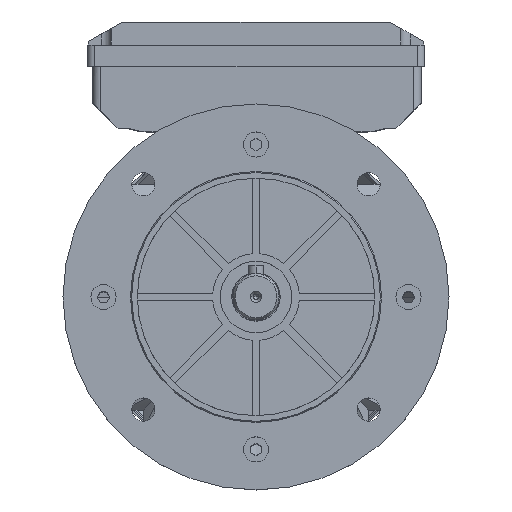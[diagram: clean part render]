
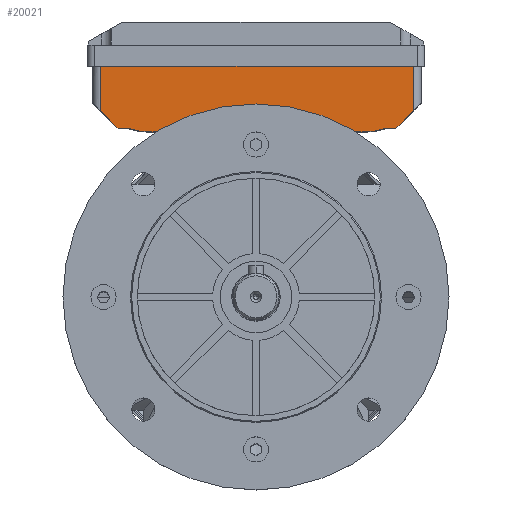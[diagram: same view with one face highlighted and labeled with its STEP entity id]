
A CAD part, top view. The second image highlights one B-rep face of the part: STEP entity #20021.
In plain terms, the highlighted planar face has unit normal (0, 0, 1).
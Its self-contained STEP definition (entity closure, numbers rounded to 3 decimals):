
#4785 = ORIENTED_EDGE ( 'NONE', *, *, #44214, .T. ) ;
#4786 = ORIENTED_EDGE ( 'NONE', *, *, #44221, .T. ) ;
#4787 = ORIENTED_EDGE ( 'NONE', *, *, #44192, .T. ) ;
#4788 = ORIENTED_EDGE ( 'NONE', *, *, #44222, .T. ) ;
#4789 = ORIENTED_EDGE ( 'NONE', *, *, #44204, .T. ) ;
#4790 = ORIENTED_EDGE ( 'NONE', *, *, #44194, .T. ) ;
#4791 = ORIENTED_EDGE ( 'NONE', *, *, #44103, .T. ) ;
#4792 = ORIENTED_EDGE ( 'NONE', *, *, #44090, .T. ) ;
#4793 = ORIENTED_EDGE ( 'NONE', *, *, #41384, .T. ) ;
#4794 = ORIENTED_EDGE ( 'NONE', *, *, #44216, .T. ) ;
#7092 = EDGE_LOOP ( 'NONE', ( #4785, #4786, #4787, #4788, #4789, #4790, #4791, #4792, #4793, #4794 ) ) ;
#16500 = FACE_OUTER_BOUND ( 'NONE', #7092, .T. ) ;
#20021 = ADVANCED_FACE ( 'NONE', ( #16500 ), #46964, .F. ) ;
#20948 = LINE ( 'NONE', #21296, #20951 ) ;
#20951 = VECTOR ( 'NONE', #21297, 1000. ) ;
#20972 = CIRCLE ( 'NONE', #34708, 41.641 ) ;
#21113 = LINE ( 'NONE', #21573, #21115 ) ;
#21115 = VECTOR ( 'NONE', #21565, 1000. ) ;
#21116 = LINE ( 'NONE', #21586, #21118 ) ;
#21118 = VECTOR ( 'NONE', #21587, 1000. ) ;
#21129 = LINE ( 'NONE', #21620, #21131 ) ;
#21131 = VECTOR ( 'NONE', #21621, 1000. ) ;
#21137 = LINE ( 'NONE', #21642, #21150 ) ;
#21144 = LINE ( 'NONE', #21646, #21146 ) ;
#21146 = VECTOR ( 'NONE', #21647, 1000. ) ;
#21150 = VECTOR ( 'NONE', #21651, 1000. ) ;
#21156 = LINE ( 'NONE', #21661, #21159 ) ;
#21158 = LINE ( 'NONE', #21663, #21161 ) ;
#21159 = VECTOR ( 'NONE', #21662, 1000. ) ;
#21161 = VECTOR ( 'NONE', #21664, 1000. ) ;
#21296 = CARTESIAN_POINT ( 'NONE',  ( -41.5, 0., 0. ) ) ;
#21297 = DIRECTION ( 'NONE',  ( 1., 0., 0. ) ) ;
#21325 = CARTESIAN_POINT ( 'NONE',  ( -54.25, 39.641, 0. ) ) ;
#21326 = DIRECTION ( 'NONE',  ( 0., 0., 1. ) ) ;
#21327 = DIRECTION ( 'NONE',  ( -1., 0., 0. ) ) ;
#21565 = DIRECTION ( 'NONE',  ( -1., 0., 0. ) ) ;
#21573 = CARTESIAN_POINT ( 'NONE',  ( -85., 41., 0. ) ) ;
#21586 = CARTESIAN_POINT ( 'NONE',  ( -72., 0., 0. ) ) ;
#21587 = DIRECTION ( 'NONE',  ( 1., 0., 0. ) ) ;
#21620 = CARTESIAN_POINT ( 'NONE',  ( -85., 13., 0. ) ) ;
#21621 = DIRECTION ( 'NONE',  ( 0.707, -0.707, 0. ) ) ;
#21642 = CARTESIAN_POINT ( 'NONE',  ( 72., 0., 0. ) ) ;
#21646 = CARTESIAN_POINT ( 'NONE',  ( 85., 13., 0. ) ) ;
#21647 = DIRECTION ( 'NONE',  ( 0.707, 0.707, 0. ) ) ;
#21651 = DIRECTION ( 'NONE',  ( 1., 0., 0. ) ) ;
#21661 = CARTESIAN_POINT ( 'NONE',  ( 81., 41., 0. ) ) ;
#21662 = DIRECTION ( 'NONE',  ( 0., 1., 0. ) ) ;
#21663 = CARTESIAN_POINT ( 'NONE',  ( -81., 13., 0. ) ) ;
#21664 = DIRECTION ( 'NONE',  ( 0., -1., 0. ) ) ;
#25262 = CIRCLE ( 'NONE', #34684, 41.641 ) ;
#29034 = CARTESIAN_POINT ( 'NONE',  ( 54.25, 39.641, 0. ) ) ;
#29036 = DIRECTION ( 'NONE',  ( 0., 0., 1. ) ) ;
#29037 = DIRECTION ( 'NONE',  ( 1., 0., 0. ) ) ;
#30905 = CARTESIAN_POINT ( 'NONE',  ( 72., 0., 0. ) ) ;
#30908 = CARTESIAN_POINT ( 'NONE',  ( 81., 9., 0. ) ) ;
#30912 = CARTESIAN_POINT ( 'NONE',  ( -81., 9., 0. ) ) ;
#30917 = CARTESIAN_POINT ( 'NONE',  ( -81., 41., 0. ) ) ;
#30922 = CARTESIAN_POINT ( 'NONE',  ( 81., 41., 0. ) ) ;
#30927 = CARTESIAN_POINT ( 'NONE',  ( -72., 0., 0. ) ) ;
#30932 = CARTESIAN_POINT ( 'NONE',  ( -67., 0., 0. ) ) ;
#30940 = CARTESIAN_POINT ( 'NONE',  ( -41.5, 0., 0. ) ) ;
#30941 = CARTESIAN_POINT ( 'NONE',  ( 67., 0., 0. ) ) ;
#30949 = CARTESIAN_POINT ( 'NONE',  ( 41.5, 0., 0. ) ) ;
#34684 = AXIS2_PLACEMENT_3D ( 'NONE', #29034, #29036, #29037 ) ;
#34708 = AXIS2_PLACEMENT_3D ( 'NONE', #21325, #21326, #21327 ) ;
#41384 = EDGE_CURVE ( 'NONE', #42899, #42891, #25262, .T. ) ;
#42855 = VERTEX_POINT ( 'NONE', #30905 ) ;
#42858 = VERTEX_POINT ( 'NONE', #30908 ) ;
#42862 = VERTEX_POINT ( 'NONE', #30912 ) ;
#42867 = VERTEX_POINT ( 'NONE', #30917 ) ;
#42872 = VERTEX_POINT ( 'NONE', #30922 ) ;
#42877 = VERTEX_POINT ( 'NONE', #30927 ) ;
#42882 = VERTEX_POINT ( 'NONE', #30932 ) ;
#42890 = VERTEX_POINT ( 'NONE', #30940 ) ;
#42891 = VERTEX_POINT ( 'NONE', #30941 ) ;
#42899 = VERTEX_POINT ( 'NONE', #30949 ) ;
#43573 = AXIS2_PLACEMENT_3D ( 'NONE', #46961, #46965, #46966 ) ;
#44090 = EDGE_CURVE ( 'NONE', #42890, #42899, #20948, .T. ) ;
#44103 = EDGE_CURVE ( 'NONE', #42882, #42890, #20972, .T. ) ;
#44192 = EDGE_CURVE ( 'NONE', #42872, #42867, #21113, .T. ) ;
#44194 = EDGE_CURVE ( 'NONE', #42877, #42882, #21116, .T. ) ;
#44204 = EDGE_CURVE ( 'NONE', #42862, #42877, #21129, .T. ) ;
#44214 = EDGE_CURVE ( 'NONE', #42855, #42858, #21144, .T. ) ;
#44216 = EDGE_CURVE ( 'NONE', #42891, #42855, #21137, .T. ) ;
#44221 = EDGE_CURVE ( 'NONE', #42858, #42872, #21156, .T. ) ;
#44222 = EDGE_CURVE ( 'NONE', #42867, #42862, #21158, .T. ) ;
#46961 = CARTESIAN_POINT ( 'NONE',  ( -54.25, 39.641, 0. ) ) ;
#46964 = PLANE ( 'NONE',  #43573 ) ;
#46965 = DIRECTION ( 'NONE',  ( 0., 0., -1. ) ) ;
#46966 = DIRECTION ( 'NONE',  ( -1., 0., 0. ) ) ;
